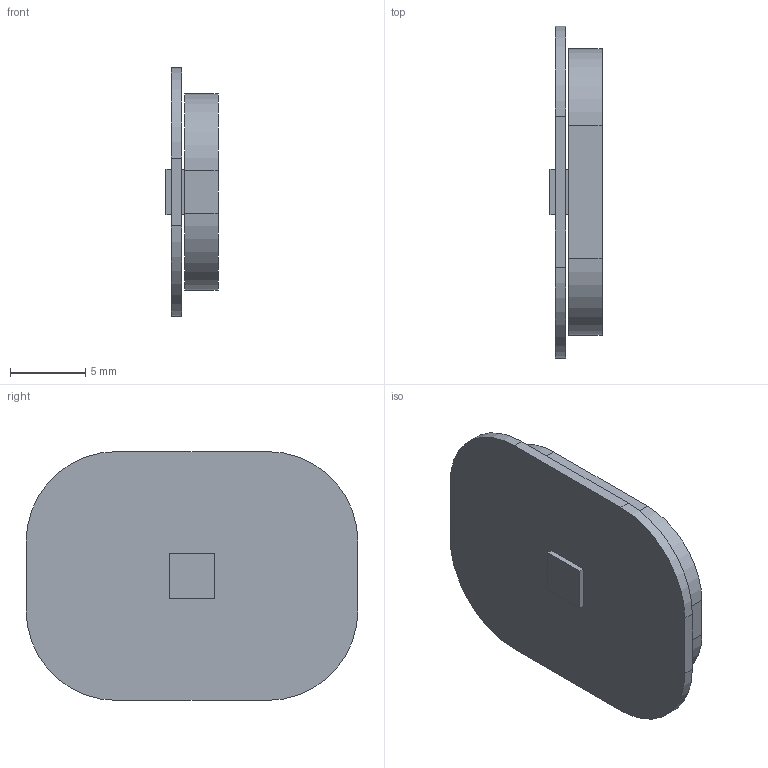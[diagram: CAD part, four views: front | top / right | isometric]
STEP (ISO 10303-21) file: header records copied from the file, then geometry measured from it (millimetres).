
FILE_DESCRIPTION(('Open CASCADE Model'),'2;1');
FILE_NAME('Open CASCADE Shape Model','2026-09-09T12:58:10',('Author'),( 'Open CASCADE'),'Open CASCADE STEP processor 7.9','Open CASCADE 7.9' ,'Unknown');
FILE_SCHEMA(('AUTOMOTIVE_DESIGN { 1 0 10303 214 1 1 1 1 }'));
Length unit declared in the file: millimetre
Products named in the file (1): Open CASCADE STEP translator 7.9 7
Bounding box: 3.45 x 22 x 16.5 mm (x, y, z)
Volume: 731.7 mm3; surface area: 1270.4 mm2
Topology: 1 solids, 1 shells, 29 faces, 72 edges, 48 vertices
Faces by surface type: plane 21, cylinder 8
Entity records: 1826 total; most frequent: CARTESIAN_POINT 330, DIRECTION 286, LINE 184, VECTOR 184, ORIENTED_EDGE 144, PCURVE 144, DEFINITIONAL_REPRESENTATION 144, EDGE_CURVE 72
